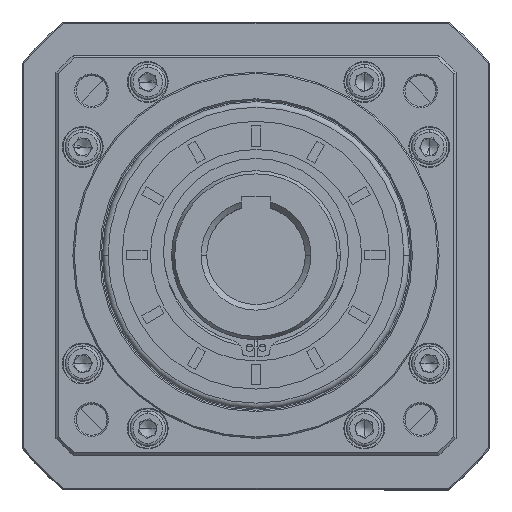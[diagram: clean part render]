
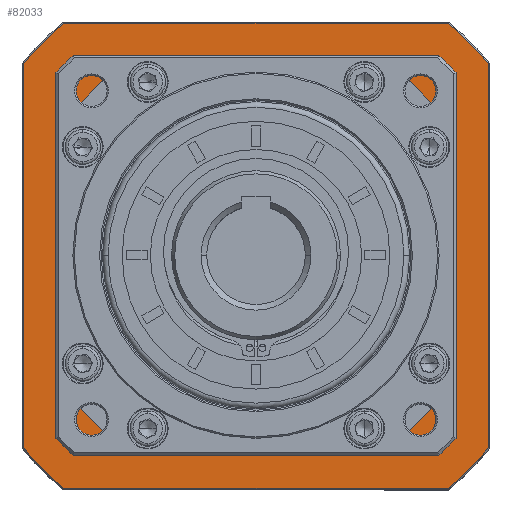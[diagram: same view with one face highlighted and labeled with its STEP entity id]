
A CAD part, top view. The second image highlights one B-rep face of the part: STEP entity #82033.
In plain terms, the highlighted planar face has unit normal (0, 0, 1).
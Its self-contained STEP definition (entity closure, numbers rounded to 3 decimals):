
#60 = VERTEX_POINT ( 'NONE', #54129 ) ;
#2127 = DIRECTION ( 'NONE',  ( -1., 0., 0. ) ) ;
#2921 = EDGE_CURVE ( 'NONE', #5929, #60, #50338, .T. ) ;
#3521 = VECTOR ( 'NONE', #75157, 1000. ) ;
#5929 = VERTEX_POINT ( 'NONE', #66536 ) ;
#6214 = EDGE_CURVE ( 'NONE', #97183, #88440, #33257, .T. ) ;
#7414 = DIRECTION ( 'NONE',  ( -1., 0., 0. ) ) ;
#7732 = DIRECTION ( 'NONE',  ( -1., 0., 0. ) ) ;
#12695 = DIRECTION ( 'NONE',  ( -1., 0., 0. ) ) ;
#13469 = DIRECTION ( 'NONE',  ( 0., 0., -1. ) ) ;
#13517 = DIRECTION ( 'NONE',  ( 1., 0., 0. ) ) ;
#13571 = EDGE_CURVE ( 'NONE', #99156, #34472, #73155, .T. ) ;
#15139 = ORIENTED_EDGE ( 'NONE', *, *, #84120, .F. ) ;
#17580 = CARTESIAN_POINT ( 'NONE',  ( -130.014, 94.538, 24.987 ) ) ;
#18407 = CARTESIAN_POINT ( 'NONE',  ( -242.392, -17.839, 24.987 ) ) ;
#19010 = VERTEX_POINT ( 'NONE', #17580 ) ;
#19214 = CARTESIAN_POINT ( 'NONE',  ( -242.392, 123.161, 24.987 ) ) ;
#19315 = EDGE_CURVE ( 'NONE', #60, #113426, #45765, .T. ) ;
#19354 = CARTESIAN_POINT ( 'NONE',  ( -200.514, 52.661, 24.987 ) ) ;
#20360 = AXIS2_PLACEMENT_3D ( 'NONE', #65397, #99889, #82897 ) ;
#20466 = DIRECTION ( 'NONE',  ( 0., 0., -1. ) ) ;
#22468 = LINE ( 'NONE', #104354, #86303 ) ;
#24823 = CARTESIAN_POINT ( 'NONE',  ( -130.014, -18.339, 24.987 ) ) ;
#25006 = VECTOR ( 'NONE', #69519, 1000. ) ;
#25618 = ORIENTED_EDGE ( 'NONE', *, *, #13571, .F. ) ;
#25712 = CARTESIAN_POINT ( 'NONE',  ( -118.014, 52.661, 24.987 ) ) ;
#27615 = VERTEX_POINT ( 'NONE', #35395 ) ;
#28527 = VERTEX_POINT ( 'NONE', #84886 ) ;
#28772 = CARTESIAN_POINT ( 'NONE',  ( -118.014, -15.477, 24.987 ) ) ;
#29002 = DIRECTION ( 'NONE',  ( 0., -1., 0. ) ) ;
#33257 = LINE ( 'NONE', #25712, #69395 ) ;
#34472 = VERTEX_POINT ( 'NONE', #97943 ) ;
#34784 = VERTEX_POINT ( 'NONE', #55715 ) ;
#35365 = CARTESIAN_POINT ( 'NONE',  ( -118.014, 120.798, 24.987 ) ) ;
#35395 = CARTESIAN_POINT ( 'NONE',  ( -268.652, 135.161, 24.987 ) ) ;
#37023 = ORIENTED_EDGE ( 'NONE', *, *, #2921, .F. ) ;
#37739 = AXIS2_PLACEMENT_3D ( 'NONE', #95475, #105187, #7414 ) ;
#37760 = CARTESIAN_POINT ( 'NONE',  ( -200.514, 52.661, 24.987 ) ) ;
#38535 = LINE ( 'NONE', #68496, #100949 ) ;
#39223 = ORIENTED_EDGE ( 'NONE', *, *, #62363, .F. ) ;
#39568 = CIRCLE ( 'NONE', #102462, 82. ) ;
#41500 = VECTOR ( 'NONE', #73004, 1000. ) ;
#42667 = AXIS2_PLACEMENT_3D ( 'NONE', #37760, #91261, #56404 ) ;
#42831 = CARTESIAN_POINT ( 'NONE',  ( -283.014, 120.798, 24.987 ) ) ;
#45056 = EDGE_LOOP ( 'NONE', ( #58143, #52628, #76009, #100902, #75031, #62469, #15139, #25618 ) ) ;
#45161 = EDGE_CURVE ( 'NONE', #113426, #28527, #38535, .T. ) ;
#45558 = CARTESIAN_POINT ( 'NONE',  ( -130.014, 10.783, 24.987 ) ) ;
#45765 = CIRCLE ( 'NONE', #42667, 82. ) ;
#47925 = DIRECTION ( 'NONE',  ( 1., 0., 0. ) ) ;
#50025 = LINE ( 'NONE', #24823, #25006 ) ;
#50338 = LINE ( 'NONE', #108898, #51682 ) ;
#50354 = EDGE_CURVE ( 'NONE', #112326, #99156, #54946, .T. ) ;
#51682 = VECTOR ( 'NONE', #109271, 1000. ) ;
#51704 = CARTESIAN_POINT ( 'NONE',  ( -132.376, -29.839, 24.987 ) ) ;
#51839 = EDGE_CURVE ( 'NONE', #95444, #97183, #52926, .T. ) ;
#52628 = ORIENTED_EDGE ( 'NONE', *, *, #85022, .F. ) ;
#52926 = CIRCLE ( 'NONE', #112047, 107. ) ;
#53235 = CIRCLE ( 'NONE', #108194, 82. ) ;
#54129 = CARTESIAN_POINT ( 'NONE',  ( -271.014, 10.783, 24.987 ) ) ;
#54169 = DIRECTION ( 'NONE',  ( 0., 0., -1. ) ) ;
#54342 = CARTESIAN_POINT ( 'NONE',  ( -268.652, -29.839, 24.987 ) ) ;
#54730 = DIRECTION ( 'NONE',  ( 0., 0., 1. ) ) ;
#54946 = LINE ( 'NONE', #93665, #3521 ) ;
#54959 = CARTESIAN_POINT ( 'NONE',  ( -200.514, 52.661, 24.987 ) ) ;
#55715 = CARTESIAN_POINT ( 'NONE',  ( -158.636, 123.161, 24.987 ) ) ;
#55887 = DIRECTION ( 'NONE',  ( -1., 0., 0. ) ) ;
#56404 = DIRECTION ( 'NONE',  ( 0., -1., 0. ) ) ;
#56758 = LINE ( 'NONE', #81960, #41500 ) ;
#58143 = ORIENTED_EDGE ( 'NONE', *, *, #50354, .F. ) ;
#59248 = FACE_OUTER_BOUND ( 'NONE', #45056, .T. ) ;
#59960 = EDGE_CURVE ( 'NONE', #94721, #5929, #53235, .T. ) ;
#62363 = EDGE_CURVE ( 'NONE', #28527, #108102, #63495, .T. ) ;
#62469 = ORIENTED_EDGE ( 'NONE', *, *, #85639, .F. ) ;
#63495 = CIRCLE ( 'NONE', #69838, 82. ) ;
#65397 = CARTESIAN_POINT ( 'NONE',  ( -200.514, 52.661, 24.987 ) ) ;
#66004 = LINE ( 'NONE', #103579, #93767 ) ;
#66126 = FACE_BOUND ( 'NONE', #88084, .T. ) ;
#66536 = CARTESIAN_POINT ( 'NONE',  ( -271.014, 94.538, 24.987 ) ) ;
#68496 = CARTESIAN_POINT ( 'NONE',  ( -129.514, -17.839, 24.987 ) ) ;
#68558 = ORIENTED_EDGE ( 'NONE', *, *, #99187, .F. ) ;
#68903 = EDGE_CURVE ( 'NONE', #27615, #95444, #22468, .T. ) ;
#69395 = VECTOR ( 'NONE', #96681, 1000. ) ;
#69519 = DIRECTION ( 'NONE',  ( 0., 1., 0. ) ) ;
#69838 = AXIS2_PLACEMENT_3D ( 'NONE', #102788, #103160, #13517 ) ;
#72909 = CIRCLE ( 'NONE', #20360, 107. ) ;
#73004 = DIRECTION ( 'NONE',  ( 0., 1., 0. ) ) ;
#73155 = CIRCLE ( 'NONE', #103612, 107. ) ;
#75031 = ORIENTED_EDGE ( 'NONE', *, *, #68903, .F. ) ;
#75157 = DIRECTION ( 'NONE',  ( -1., 0., 0. ) ) ;
#75867 = CARTESIAN_POINT ( 'NONE',  ( -200.514, 52.661, 24.987 ) ) ;
#76009 = ORIENTED_EDGE ( 'NONE', *, *, #6214, .F. ) ;
#79579 = ORIENTED_EDGE ( 'NONE', *, *, #98828, .F. ) ;
#81960 = CARTESIAN_POINT ( 'NONE',  ( -283.014, 52.661, 24.987 ) ) ;
#82033 = ADVANCED_FACE ( 'NONE', ( #59248, #66126 ), #114062, .F. ) ;
#82897 = DIRECTION ( 'NONE',  ( -1., 0., 0. ) ) ;
#83505 = CARTESIAN_POINT ( 'NONE',  ( -132.376, 135.161, 24.987 ) ) ;
#84120 = EDGE_CURVE ( 'NONE', #34472, #95185, #56758, .T. ) ;
#84786 = DIRECTION ( 'NONE',  ( 0., 0., 1. ) ) ;
#84886 = CARTESIAN_POINT ( 'NONE',  ( -158.636, -17.839, 24.987 ) ) ;
#85022 = EDGE_CURVE ( 'NONE', #88440, #112326, #100870, .T. ) ;
#85639 = EDGE_CURVE ( 'NONE', #95185, #27615, #72909, .T. ) ;
#85776 = ORIENTED_EDGE ( 'NONE', *, *, #97117, .F. ) ;
#86303 = VECTOR ( 'NONE', #86920, 1000. ) ;
#86920 = DIRECTION ( 'NONE',  ( 1., 0., 0. ) ) ;
#88084 = EDGE_LOOP ( 'NONE', ( #68558, #85776, #39223, #98165, #90019, #37023, #94053, #79579 ) ) ;
#88440 = VERTEX_POINT ( 'NONE', #28772 ) ;
#90019 = ORIENTED_EDGE ( 'NONE', *, *, #19315, .F. ) ;
#91261 = DIRECTION ( 'NONE',  ( 0., 0., 1. ) ) ;
#91469 = CARTESIAN_POINT ( 'NONE',  ( -200.514, 52.661, 24.987 ) ) ;
#93665 = CARTESIAN_POINT ( 'NONE',  ( -200.514, -29.839, 24.987 ) ) ;
#93767 = VECTOR ( 'NONE', #7732, 1000. ) ;
#94053 = ORIENTED_EDGE ( 'NONE', *, *, #59960, .F. ) ;
#94721 = VERTEX_POINT ( 'NONE', #19214 ) ;
#95185 = VERTEX_POINT ( 'NONE', #42831 ) ;
#95444 = VERTEX_POINT ( 'NONE', #83505 ) ;
#95475 = CARTESIAN_POINT ( 'NONE',  ( -200.514, 52.661, 24.987 ) ) ;
#96681 = DIRECTION ( 'NONE',  ( 0., -1., 0. ) ) ;
#97117 = EDGE_CURVE ( 'NONE', #108102, #19010, #50025, .T. ) ;
#97183 = VERTEX_POINT ( 'NONE', #35365 ) ;
#97943 = CARTESIAN_POINT ( 'NONE',  ( -283.014, -15.477, 24.987 ) ) ;
#98165 = ORIENTED_EDGE ( 'NONE', *, *, #45161, .F. ) ;
#98828 = EDGE_CURVE ( 'NONE', #34784, #94721, #66004, .T. ) ;
#99156 = VERTEX_POINT ( 'NONE', #54342 ) ;
#99187 = EDGE_CURVE ( 'NONE', #19010, #34784, #39568, .T. ) ;
#99889 = DIRECTION ( 'NONE',  ( 0., 0., -1. ) ) ;
#100870 = CIRCLE ( 'NONE', #104349, 107. ) ;
#100902 = ORIENTED_EDGE ( 'NONE', *, *, #51839, .F. ) ;
#100949 = VECTOR ( 'NONE', #106136, 1000. ) ;
#102462 = AXIS2_PLACEMENT_3D ( 'NONE', #91469, #54730, #29002 ) ;
#102788 = CARTESIAN_POINT ( 'NONE',  ( -200.514, 52.661, 24.987 ) ) ;
#103160 = DIRECTION ( 'NONE',  ( 0., 0., 1. ) ) ;
#103579 = CARTESIAN_POINT ( 'NONE',  ( -129.514, 123.161, 24.987 ) ) ;
#103612 = AXIS2_PLACEMENT_3D ( 'NONE', #54959, #54169, #2127 ) ;
#104349 = AXIS2_PLACEMENT_3D ( 'NONE', #19354, #20466, #55887 ) ;
#104354 = CARTESIAN_POINT ( 'NONE',  ( -200.514, 135.161, 24.987 ) ) ;
#105187 = DIRECTION ( 'NONE',  ( 0., 0., -1. ) ) ;
#106136 = DIRECTION ( 'NONE',  ( 1., 0., 0. ) ) ;
#108102 = VERTEX_POINT ( 'NONE', #45558 ) ;
#108194 = AXIS2_PLACEMENT_3D ( 'NONE', #75867, #84786, #47925 ) ;
#108898 = CARTESIAN_POINT ( 'NONE',  ( -271.014, -18.339, 24.987 ) ) ;
#109271 = DIRECTION ( 'NONE',  ( 0., -1., 0. ) ) ;
#110882 = CARTESIAN_POINT ( 'NONE',  ( -200.514, 52.661, 24.987 ) ) ;
#112047 = AXIS2_PLACEMENT_3D ( 'NONE', #110882, #13469, #12695 ) ;
#112326 = VERTEX_POINT ( 'NONE', #51704 ) ;
#113426 = VERTEX_POINT ( 'NONE', #18407 ) ;
#114062 = PLANE ( 'NONE',  #37739 ) ;
